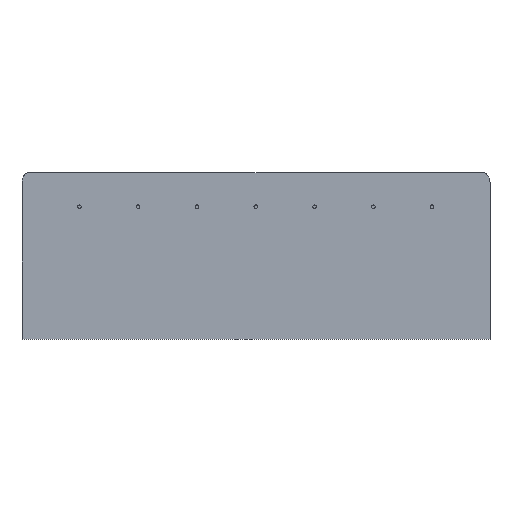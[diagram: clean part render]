
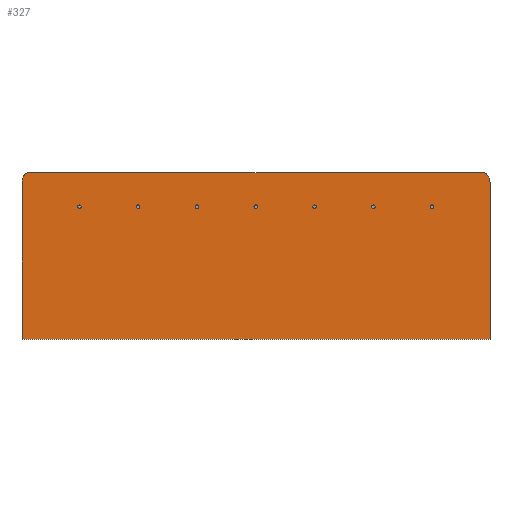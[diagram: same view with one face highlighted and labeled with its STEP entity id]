
A CAD part, top view. The second image highlights one B-rep face of the part: STEP entity #327.
In plain terms, the highlighted planar face has unit normal (0, 0, 1).
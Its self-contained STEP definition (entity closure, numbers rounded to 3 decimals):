
#32=CARTESIAN_POINT('',(0.,-2.433,0.));
#33=VERTEX_POINT('',#32);
#34=CARTESIAN_POINT('',(0.,-119.,0.));
#35=VERTEX_POINT('',#34);
#36=CARTESIAN_POINT('',(0.,-2.433,0.));
#37=DIRECTION('',(-0.,-1.,0.));
#38=VECTOR('',#37,116.567);
#39=LINE('',#36,#38);
#40=EDGE_CURVE('',#33,#35,#39,.T.);
#74=CARTESIAN_POINT('',(5.,5.,0.));
#75=VERTEX_POINT('',#74);
#82=CARTESIAN_POINT('',(343.,5.,0.));
#83=VERTEX_POINT('',#82);
#84=CARTESIAN_POINT('',(343.,5.,0.));
#85=DIRECTION('',(-1.,0.,0.));
#86=VECTOR('',#85,338.);
#87=LINE('',#84,#86);
#88=EDGE_CURVE('',#83,#75,#87,.T.);
#104=CARTESIAN_POINT('',(348.,-119.,0.));
#105=VERTEX_POINT('',#104);
#114=CARTESIAN_POINT('',(348.,-2.433,0.));
#115=VERTEX_POINT('',#114);
#122=CARTESIAN_POINT('',(348.,-119.,0.));
#123=DIRECTION('',(0.,1.,0.));
#124=VECTOR('',#123,116.567);
#125=LINE('',#122,#124);
#126=EDGE_CURVE('',#105,#115,#125,.T.);
#153=CARTESIAN_POINT('',(0.,-119.,0.));
#154=DIRECTION('',(1.,0.,-0.));
#155=VECTOR('',#154,348.);
#156=LINE('',#153,#155);
#157=EDGE_CURVE('',#35,#105,#156,.T.);
#162=CARTESIAN_POINT('',(0.,1.,0.));
#163=DIRECTION('',(0.,0.,-1.));
#164=DIRECTION('',(-1.,0.,0.));
#165=AXIS2_PLACEMENT_3D('',#162,#163,#164);
#166=PLANE('',#165);
#167=CARTESIAN_POINT('',(41.383,-20.375,0.));
#168=VERTEX_POINT('',#167);
#169=CARTESIAN_POINT('',(44.033,-20.375,0.));
#170=VERTEX_POINT('',#169);
#171=CARTESIAN_POINT('',(42.708,-20.375,0.));
#172=DIRECTION('',(0.,0.,-1.));
#173=DIRECTION('',(-1.,0.,0.));
#174=AXIS2_PLACEMENT_3D('',#171,#172,#173);
#175=CIRCLE('',#174,1.325);
#176=EDGE_CURVE('',#168,#170,#175,.T.);
#177=ORIENTED_EDGE('',*,*,#176,.T.);
#178=CARTESIAN_POINT('',(42.708,-20.375,0.));
#179=DIRECTION('',(0.,0.,-1.));
#180=DIRECTION('',(-1.,0.,0.));
#181=AXIS2_PLACEMENT_3D('',#178,#179,#180);
#182=CIRCLE('',#181,1.325);
#183=EDGE_CURVE('',#170,#168,#182,.T.);
#184=ORIENTED_EDGE('',*,*,#183,.T.);
#185=EDGE_LOOP('',(#177,#184));
#186=FACE_BOUND('',#185,.T.);
#187=CARTESIAN_POINT('',(259.922,-20.375,0.));
#188=VERTEX_POINT('',#187);
#189=CARTESIAN_POINT('',(262.572,-20.375,0.));
#190=VERTEX_POINT('',#189);
#191=CARTESIAN_POINT('',(261.247,-20.375,0.));
#192=DIRECTION('',(0.,0.,-1.));
#193=DIRECTION('',(-1.,0.,0.));
#194=AXIS2_PLACEMENT_3D('',#191,#192,#193);
#195=CIRCLE('',#194,1.325);
#196=EDGE_CURVE('',#188,#190,#195,.T.);
#197=ORIENTED_EDGE('',*,*,#196,.T.);
#198=CARTESIAN_POINT('',(261.247,-20.375,0.));
#199=DIRECTION('',(0.,0.,-1.));
#200=DIRECTION('',(-1.,0.,0.));
#201=AXIS2_PLACEMENT_3D('',#198,#199,#200);
#202=CIRCLE('',#201,1.325);
#203=EDGE_CURVE('',#190,#188,#202,.T.);
#204=ORIENTED_EDGE('',*,*,#203,.T.);
#205=EDGE_LOOP('',(#197,#204));
#206=FACE_BOUND('',#205,.T.);
#207=CARTESIAN_POINT('',(172.506,-20.375,0.));
#208=VERTEX_POINT('',#207);
#209=CARTESIAN_POINT('',(175.156,-20.375,0.));
#210=VERTEX_POINT('',#209);
#211=CARTESIAN_POINT('',(173.831,-20.375,0.));
#212=DIRECTION('',(0.,0.,-1.));
#213=DIRECTION('',(-1.,0.,0.));
#214=AXIS2_PLACEMENT_3D('',#211,#212,#213);
#215=CIRCLE('',#214,1.325);
#216=EDGE_CURVE('',#208,#210,#215,.T.);
#217=ORIENTED_EDGE('',*,*,#216,.T.);
#218=CARTESIAN_POINT('',(173.831,-20.375,0.));
#219=DIRECTION('',(0.,0.,-1.));
#220=DIRECTION('',(-1.,0.,0.));
#221=AXIS2_PLACEMENT_3D('',#218,#219,#220);
#222=CIRCLE('',#221,1.325);
#223=EDGE_CURVE('',#210,#208,#222,.T.);
#224=ORIENTED_EDGE('',*,*,#223,.T.);
#225=EDGE_LOOP('',(#217,#224));
#226=FACE_BOUND('',#225,.T.);
#227=CARTESIAN_POINT('',(216.214,-20.375,0.));
#228=VERTEX_POINT('',#227);
#229=CARTESIAN_POINT('',(218.864,-20.375,0.));
#230=VERTEX_POINT('',#229);
#231=CARTESIAN_POINT('',(217.539,-20.375,0.));
#232=DIRECTION('',(0.,0.,-1.));
#233=DIRECTION('',(-1.,0.,0.));
#234=AXIS2_PLACEMENT_3D('',#231,#232,#233);
#235=CIRCLE('',#234,1.325);
#236=EDGE_CURVE('',#228,#230,#235,.T.);
#237=ORIENTED_EDGE('',*,*,#236,.T.);
#238=CARTESIAN_POINT('',(217.539,-20.375,0.));
#239=DIRECTION('',(0.,0.,-1.));
#240=DIRECTION('',(-1.,0.,0.));
#241=AXIS2_PLACEMENT_3D('',#238,#239,#240);
#242=CIRCLE('',#241,1.325);
#243=EDGE_CURVE('',#230,#228,#242,.T.);
#244=ORIENTED_EDGE('',*,*,#243,.T.);
#245=EDGE_LOOP('',(#237,#244));
#246=FACE_BOUND('',#245,.T.);
#247=CARTESIAN_POINT('',(128.798,-20.375,0.));
#248=VERTEX_POINT('',#247);
#249=CARTESIAN_POINT('',(131.448,-20.375,0.));
#250=VERTEX_POINT('',#249);
#251=CARTESIAN_POINT('',(130.123,-20.375,0.));
#252=DIRECTION('',(0.,0.,-1.));
#253=DIRECTION('',(-1.,0.,0.));
#254=AXIS2_PLACEMENT_3D('',#251,#252,#253);
#255=CIRCLE('',#254,1.325);
#256=EDGE_CURVE('',#248,#250,#255,.T.);
#257=ORIENTED_EDGE('',*,*,#256,.T.);
#258=CARTESIAN_POINT('',(130.123,-20.375,0.));
#259=DIRECTION('',(0.,0.,-1.));
#260=DIRECTION('',(-1.,0.,0.));
#261=AXIS2_PLACEMENT_3D('',#258,#259,#260);
#262=CIRCLE('',#261,1.325);
#263=EDGE_CURVE('',#250,#248,#262,.T.);
#264=ORIENTED_EDGE('',*,*,#263,.T.);
#265=EDGE_LOOP('',(#257,#264));
#266=FACE_BOUND('',#265,.T.);
#267=CARTESIAN_POINT('',(85.091,-20.375,0.));
#268=VERTEX_POINT('',#267);
#269=CARTESIAN_POINT('',(87.741,-20.375,0.));
#270=VERTEX_POINT('',#269);
#271=CARTESIAN_POINT('',(86.416,-20.375,0.));
#272=DIRECTION('',(0.,0.,-1.));
#273=DIRECTION('',(-1.,0.,0.));
#274=AXIS2_PLACEMENT_3D('',#271,#272,#273);
#275=CIRCLE('',#274,1.325);
#276=EDGE_CURVE('',#268,#270,#275,.T.);
#277=ORIENTED_EDGE('',*,*,#276,.T.);
#278=CARTESIAN_POINT('',(86.416,-20.375,0.));
#279=DIRECTION('',(0.,0.,-1.));
#280=DIRECTION('',(-1.,0.,0.));
#281=AXIS2_PLACEMENT_3D('',#278,#279,#280);
#282=CIRCLE('',#281,1.325);
#283=EDGE_CURVE('',#270,#268,#282,.T.);
#284=ORIENTED_EDGE('',*,*,#283,.T.);
#285=EDGE_LOOP('',(#277,#284));
#286=FACE_BOUND('',#285,.T.);
#287=CARTESIAN_POINT('',(303.63,-20.375,0.));
#288=VERTEX_POINT('',#287);
#289=CARTESIAN_POINT('',(306.28,-20.375,0.));
#290=VERTEX_POINT('',#289);
#291=CARTESIAN_POINT('',(304.955,-20.375,0.));
#292=DIRECTION('',(0.,0.,-1.));
#293=DIRECTION('',(-1.,0.,0.));
#294=AXIS2_PLACEMENT_3D('',#291,#292,#293);
#295=CIRCLE('',#294,1.325);
#296=EDGE_CURVE('',#288,#290,#295,.T.);
#297=ORIENTED_EDGE('',*,*,#296,.T.);
#298=CARTESIAN_POINT('',(304.955,-20.375,0.));
#299=DIRECTION('',(0.,0.,-1.));
#300=DIRECTION('',(-1.,0.,0.));
#301=AXIS2_PLACEMENT_3D('',#298,#299,#300);
#302=CIRCLE('',#301,1.325);
#303=EDGE_CURVE('',#290,#288,#302,.T.);
#304=ORIENTED_EDGE('',*,*,#303,.T.);
#305=EDGE_LOOP('',(#297,#304));
#306=FACE_BOUND('',#305,.T.);
#307=ORIENTED_EDGE('',*,*,#88,.T.);
#308=CARTESIAN_POINT('',(5.,-2.433,0.));
#309=DIRECTION('',(-0.,-0.,1.));
#310=DIRECTION('',(0.,1.,0.));
#311=AXIS2_PLACEMENT_3D('',#308,#309,#310);
#312=ELLIPSE('',#311,7.433,5.);
#313=EDGE_CURVE('',#75,#33,#312,.T.);
#314=ORIENTED_EDGE('',*,*,#313,.T.);
#315=ORIENTED_EDGE('',*,*,#40,.T.);
#316=ORIENTED_EDGE('',*,*,#157,.T.);
#317=ORIENTED_EDGE('',*,*,#126,.T.);
#318=CARTESIAN_POINT('',(343.,-2.433,0.));
#319=DIRECTION('',(-0.,-0.,1.));
#320=DIRECTION('',(0.,1.,0.));
#321=AXIS2_PLACEMENT_3D('',#318,#319,#320);
#322=ELLIPSE('',#321,7.433,5.);
#323=EDGE_CURVE('',#115,#83,#322,.T.);
#324=ORIENTED_EDGE('',*,*,#323,.T.);
#325=EDGE_LOOP('',(#307,#314,#315,#316,#317,#324));
#326=FACE_BOUND('',#325,.T.);
#327=ADVANCED_FACE('',(#186,#206,#226,#246,#266,#286,#306,#326),#166,.F.);
